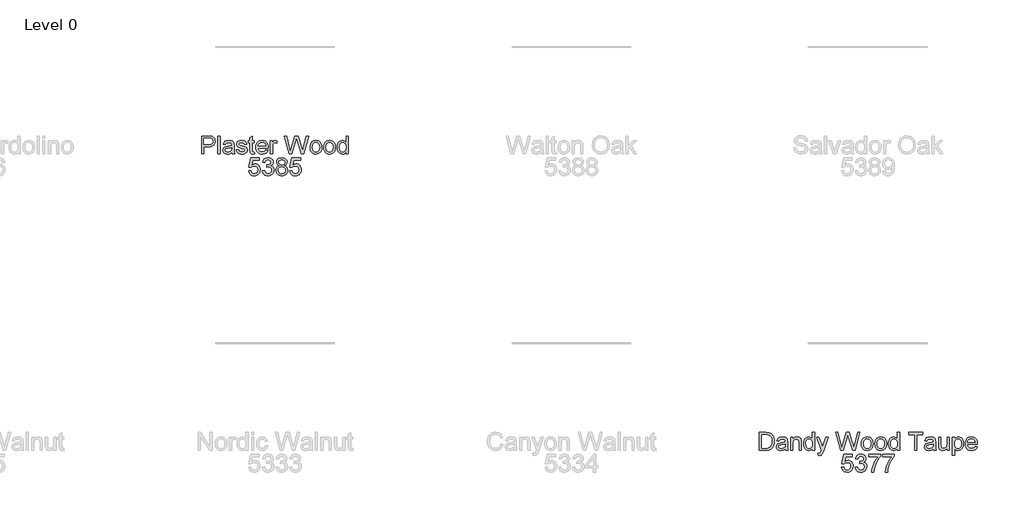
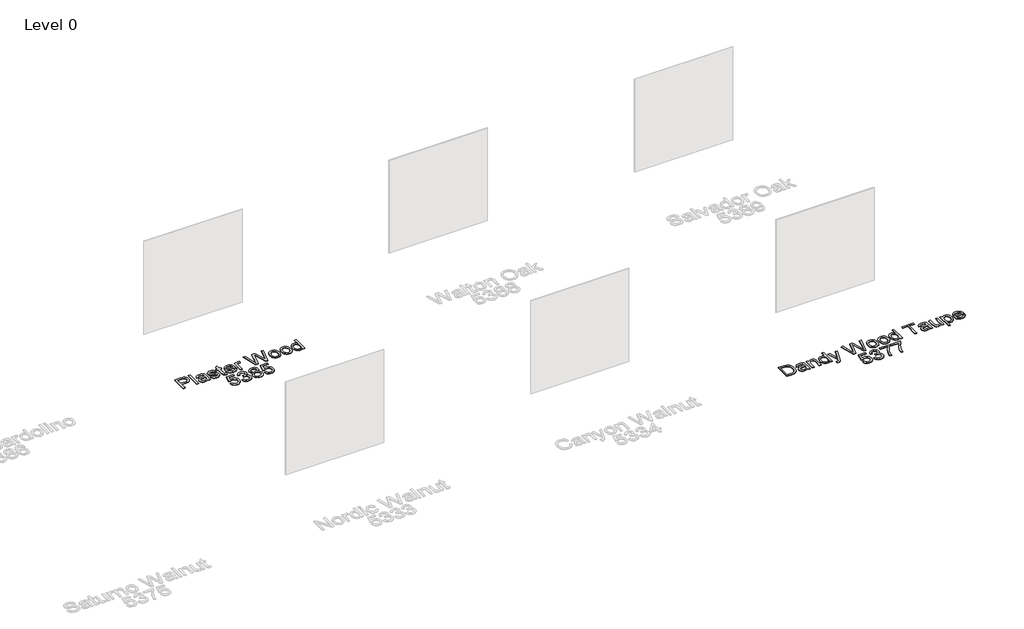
# One storey, part 14 of 16: 2 proxies.
"""IFC4 building model written with IfcOpenShell, lengths in millimetres."""

import ifcopenshell
import ifcopenshell.guid

model = None  # the IFC model being written
_history = None  # IfcOwnerHistory: only IFC2X3 demands one
_inside = {}  # id of a spatial element -> (the spatial element, [elements in it])
_under = {}  # id of a project, library or spatial element -> (it, [spatial elements below it])
_declared = {}  # id of a project -> (the project, [libraries it declares])
_typed = {}  # id of a type object -> (the type object, [elements of that type])
_made_of = {}  # id of a material, layer set ... -> (it, [elements and type objects made of it])


def new_model(schema):
    """Start an empty IFC model of exactly this schema.

    Asked for "IFC4X3", IfcOpenShell would pick the latest addendum, in which some entities
    have other attributes; the version numbers below select the first issue.
    IFC2X3 requires an IfcOwnerHistory on every rooted entity: one is made here for all.
    """
    global model, _history
    if schema == "IFC4X3":
        model = ifcopenshell.file(schema_version=(4, 3, 0, 0))
    else:
        model = ifcopenshell.file(schema=schema)
    _inside.clear()
    _under.clear()
    _declared.clear()
    _typed.clear()
    _made_of.clear()
    _history = None
    if model.schema == "IFC2X3":
        org = make("IfcOrganization", Name="unknown")
        user = make(
            "IfcPersonAndOrganization",
            ThePerson=make("IfcPerson", FamilyName="unknown"),
            TheOrganization=org,
        )
        app = make(
            "IfcApplication",
            ApplicationDeveloper=org,
            Version="unknown",
            ApplicationFullName="unknown",
            ApplicationIdentifier="unknown",
        )
        _history = make(
            "IfcOwnerHistory",
            OwningUser=user,
            OwningApplication=app,
            ChangeAction="ADDED",
            CreationDate=0,
        )
    return model


def make(cls, **values):
    """One entity of the class cls with the attributes given. An attribute that is None is left unset."""
    return model.create_entity(
        cls, **{name: value for name, value in values.items() if value is not None}
    )


def rooted(cls, **values):
    """An entity with a GlobalId (a new one), such as an element, a storey or a relation."""
    return make(cls, GlobalId=ifcopenshell.guid.new(), OwnerHistory=_history, **values)


def si_unit(unit_type, name, prefix=None):
    """IfcSIUnit, for example si_unit("LENGTHUNIT", "METRE", prefix="MILLI")."""
    return make("IfcSIUnit", UnitType=unit_type, Prefix=prefix, Name=name)


def assignment(units):
    """IfcUnitAssignment: the units of a project."""
    return None if units is None else make("IfcUnitAssignment", Units=units)


def point(xyz):
    """IfcCartesianPoint."""
    return None if xyz is None else make("IfcCartesianPoint", Coordinates=xyz)


def direction(xyz):
    """IfcDirection."""
    return None if xyz is None else make("IfcDirection", DirectionRatios=xyz)


def frame(location, z_axis=None, x_axis=None):
    """IfcAxis2Placement3D, a coordinate frame: its origin and axes. An axis left out is left unset."""
    return make(
        "IfcAxis2Placement3D",
        Location=point(location),
        Axis=direction(z_axis),
        RefDirection=direction(x_axis),
    )


def origin():
    """The frame at (0, 0, 0) with its axes left unset."""
    return frame((0.0, 0.0, 0.0))


def origin_with_axes():
    """The frame at (0, 0, 0) with the z axis (0, 0, 1) and the x axis (1, 0, 0) written out."""
    return frame((0.0, 0.0, 0.0), z_axis=(0.0, 0.0, 1.0), x_axis=(1.0, 0.0, 0.0))


def place(relative_to, where):
    """IfcLocalPlacement: puts the frame where relative to a parent placement (None: the world)."""
    return make(
        "IfcLocalPlacement", PlacementRelTo=relative_to, RelativePlacement=where
    )


def context(
    kind, dimensions, precision=None, world=None, true_north=None, identifier=None
):
    """IfcGeometricRepresentationContext, for example the 3D "Model" context."""
    return make(
        "IfcGeometricRepresentationContext",
        ContextIdentifier=identifier,
        ContextType=kind,
        CoordinateSpaceDimension=dimensions,
        Precision=precision,
        WorldCoordinateSystem=world,
        TrueNorth=true_north,
    )


def project(units=None, contexts=None):
    """IfcProject with its units and contexts."""
    return rooted(
        "IfcProject",
        Name="project",
        RepresentationContexts=contexts,
        UnitsInContext=assignment(units),
    )


def spatial(cls, under=None, at=None, **own):
    """A site, building, storey or space (cls), placed at a placement, below another one or the project."""
    s = rooted(cls, ObjectPlacement=at, **own)
    if under is not None:
        _under.setdefault(under.id(), (under, []))[1].append(s)
    return s


def polyline(points):
    """IfcPolyline through the points."""
    return make("IfcPolyline", Points=[point(p) for p in points])


def outline(outer, holes=None, kind="AREA"):
    """IfcArbitraryClosedProfileDef: a profile drawn as a closed curve; with holes, ...WithVoids."""
    if holes is None:
        return make("IfcArbitraryClosedProfileDef", ProfileType=kind, OuterCurve=outer)
    return make(
        "IfcArbitraryProfileDefWithVoids",
        ProfileType=kind,
        OuterCurve=outer,
        InnerCurves=holes,
    )


def extrude(swept, where, along, depth):
    """IfcExtrudedAreaSolid: the profile swept, set in the frame where, extruded along a direction by depth."""
    return make(
        "IfcExtrudedAreaSolid",
        SweptArea=swept,
        Position=where,
        ExtrudedDirection=direction(along),
        Depth=depth,
    )


def shape(context_of_items, identifier, shape_type, items):
    """IfcShapeRepresentation: the items that make up one representation, for example the "Body"."""
    return make(
        "IfcShapeRepresentation",
        ContextOfItems=context_of_items,
        RepresentationIdentifier=identifier,
        RepresentationType=shape_type,
        Items=items,
    )


def made_of(thing, what):
    """Note that an element or type object is made of a material, layer set ...; save() writes the relation."""
    if what is not None:
        _made_of.setdefault(what.id(), (what, []))[1].append(thing)
    return thing


def element(
    cls,
    number,
    at=None,
    inside=None,
    cuts=None,
    type_object=None,
    material=None,
    context=None,
    identifier="Body",
    shape_type=None,
    held_by="IfcProductDefinitionShape",
    body=None,
    shapes=None,
    **own,
):
    """One element of the class cls, such as IfcWall. Its Tag is "e" and its number.

    at: its placement. inside: the storey or other place that contains it. cuts: it is an
    opening in that element (IfcRelVoidsElement). A single representation is given by context,
    identifier, shape_type and body (its items); several are given by shapes. held_by: the class
    of the entity that holds the representations. save() writes the other relations.
    """
    e = rooted(cls, Tag="e%d" % number, ObjectPlacement=at, **own)
    if body is not None:
        shapes = [shape(context, identifier, shape_type, body)]
    if shapes is not None:
        e.Representation = make(held_by, Representations=shapes)
    if inside is not None:
        _inside.setdefault(inside.id(), (inside, []))[1].append(e)
    if cuts is not None:
        rooted(
            "IfcRelVoidsElement", RelatingBuildingElement=cuts, RelatedOpeningElement=e
        )
    if type_object is not None:
        _typed.setdefault(type_object.id(), (type_object, []))[1].append(e)
    return made_of(e, material)


def aggregate(whole, parts):
    """IfcRelAggregates: a whole, such as a stair, and the parts it consists of."""
    return rooted("IfcRelAggregates", RelatingObject=whole, RelatedObjects=parts)


def save(model, path):
    """Write the relations noted so far, then the file.

    IfcRelAggregates (storeys below a building ...), IfcRelContainedInSpatialStructure (elements
    in a storey), IfcRelDefinesByType, IfcRelAssociatesMaterial and IfcRelDeclares: one each for
    every whole, place, type object, material and project.
    """
    for whole, parts in _under.values():
        aggregate(whole, parts)
    for where, things in _inside.values():
        rooted(
            "IfcRelContainedInSpatialStructure",
            RelatedElements=things,
            RelatingStructure=where,
        )
    for kind, things in _typed.values():
        rooted("IfcRelDefinesByType", RelatedObjects=things, RelatingType=kind)
    for what, things in _made_of.values():
        rooted("IfcRelAssociatesMaterial", RelatedObjects=things, RelatingMaterial=what)
    for by, libraries in _declared.values():
        rooted("IfcRelDeclares", RelatingContext=by, RelatedDefinitions=libraries)
    model.write(path)


model = new_model("IFC4")

# Units and contexts
model_context = context("Model", 3, world=origin())
ifc_project = project(units=[si_unit("LENGTHUNIT", "METRE", prefix="MILLI")], contexts=[model_context])

# Site, building, storey
site = spatial("IfcSite", under=ifc_project)
building = spatial("IfcBuilding", under=site)
storey = spatial("IfcBuildingStorey", under=building, Name="Level 0", Elevation=0.0)

# Proxies
placement = place(None, origin())
element("IfcBuildingElementProxy", 1, Name="300mm Arial", ObjectType="300mm Arial", at=placement, inside=storey, context=model_context, shape_type="SweptSolid", body=[
    extrude(outline(polyline([(8722.2928028, -12002.860494), (8722.2928028, -11701.4915635), (8826.2562547, -11701.4915635), (8880.0406024, -11705.8325711), (8904.0632967, -11714.2018865), (8924.3335946, -11727.390456), (8945.1741096, -11750.3462925), (8960.0181481, -11778.8939353), (8968.9024983, -11812.4815615), (8971.8639484, -11850.557348), (8969.8589915, -11882.9033724), (8963.8441209, -11911.3682418), (8954.6838592, -11935.6024682), (8943.2427291, -11955.2565638), (8930.0725537, -11970.771987), (8915.7251559, -11982.590196), (8899.2532396, -11991.3549846), (8879.7095086, -11997.710146), (8831.2594498, -12002.860494), (8722.2928028, -12002.860494)]), holes=[polyline([(8759.9639192, -11965.1893777), (8826.6241367, -11965.1893777), (8854.1968922, -11963.8282143), (8875.1109836, -11959.7447241), (8890.8931212, -11953.1780305), (8903.0700153, -11944.3672567), (8916.1574173, -11928.0608873), (8925.9890636, -11906.9536578), (8932.1418899, -11880.9535978), (8934.1928321, -11849.9687368), (8930.1737213, -11808.9131061), (8918.1163889, -11778.5996297), (8900.3017033, -11757.7775088), (8879.0105328, -11745.1959446), (8857.3422833, -11740.670996), (8825.5940671, -11739.1626798), (8759.9639192, -11739.1626798), (8759.9639192, -11965.1893777)])]), origin_with_axes(), (0.0, 0.0, 1.0), 10.0),
    extrude(outline(polyline([(9160.2195299, -11974.6071568), (9142.2209033, -11990.0398064), (9123.6888478, -12000.1381672), (9104.2002991, -12005.7115794), (9083.3321929, -12007.5693835), (9051.8506912, -12003.0996173), (9028.6281402, -11989.6903186), (9014.3083336, -11969.3280501), (9009.5350647, -11943.9993748), (9011.3376865, -11928.3827841), (9016.7455518, -11914.2009331), (9025.087276, -11902.0608273), (9035.6914745, -11892.5694718), (9062.0686136, -11880.2086368), (9094.6629584, -11874.5432541), (9133.1802033, -11868.5835657), (9159.9988007, -11861.5938078), (9160.2195299, -11853.2060983), (9157.6259618, -11836.3938912), (9149.8452576, -11825.3942195), (9132.4444393, -11817.2272392), (9108.2010158, -11814.5049125), (9085.7602141, -11816.3167313), (9070.0884411, -11821.7521878), (9059.4014691, -11831.8045633), (9051.9150705, -11847.4671392), (9014.2439542, -11842.7582497), (9020.7830567, -11822.156858), (9030.5411266, -11805.9700502), (9044.4286719, -11793.590821), (9063.3562006, -11784.4121652), (9086.5051751, -11778.7283884), (9113.0570581, -11776.8337961), (9138.5236892, -11778.5076592), (9158.7112137, -11783.5292485), (9173.9323313, -11791.0800264), (9184.4997416, -11800.3414556), (9191.5078936, -11811.7917827), (9196.0512362, -11825.9092543), (9197.8906462, -11858.8714811), (9197.8906462, -11905.7396473), (9199.8036326, -11971.1858542), (9207.3084253, -12002.860494), (9169.637309, -12002.860494), (9160.2195299, -11974.6071568)]), holes=[polyline([(9160.2195299, -11899.2649241), (9099.4454243, -11910.8164188), (9067.0350205, -11916.9232599), (9052.3565289, -11926.8560738), (9047.206181, -11941.3506244), (9050.0112812, -11952.5526311), (9058.4265818, -11961.7312869), (9072.2681419, -11967.8565221), (9091.3520204, -11969.8982672), (9111.5855301, -11967.64499), (9129.4645951, -11960.8851583), (9143.9591457, -11950.9247533), (9154.0391124, -11939.069756), (9158.5088786, -11926.8560738), (9159.9988007, -11909.933502), (9160.2195299, -11899.2649241)])]), origin_with_axes(), (0.0, 0.0, 1.0), 10.0),
    extrude(outline(polyline([(9249.6884311, -12002.860494), (9249.6884311, -11781.5426857), (9287.3595474, -11781.5426857), (9287.3595474, -11812.4447733), (9300.4469494, -11796.8649708), (9316.1647077, -11785.7365404), (9334.5128222, -11779.0594822), (9355.4912929, -11776.8337961), (9374.0601367, -11778.6272209), (9391.0654819, -11784.0074951), (9405.2473328, -11792.303234), (9415.3456936, -11802.8430532), (9426.6396708, -11830.5445674), (9428.6262336, -11866.964885), (9428.6262336, -12002.860494), (9390.9551173, -12002.860494), (9390.9551173, -11872.0416565), (9386.6141097, -11838.7115477), (9380.6084362, -11828.7879309), (9371.2734305, -11821.0900002), (9359.3080686, -11816.1511844), (9345.4113263, -11814.5049125), (9323.3476036, -11818.2021265), (9304.5396366, -11829.2937687), (9297.0233476, -11838.3482643), (9291.6545697, -11850.7228949), (9287.3595474, -11885.4325611), (9287.3595474, -12002.860494), (9249.6884311, -12002.860494)])), origin_with_axes(), (0.0, 0.0, 1.0), 10.0),
    extrude(outline(polyline([(9616.9818151, -12002.860494), (9616.9818151, -11967.3230932), (9605.7108305, -11984.9308452), (9592.0578099, -11997.507811), (9576.0227535, -12005.0539904), (9557.6056611, -12007.5693835), (9533.251873, -12003.9273518), (9510.9582241, -11993.0012565), (9492.0858778, -11975.5544529), (9477.9959973, -11952.350296), (9469.2220118, -11924.3268851), (9466.2973499, -11892.422319), (9468.9920855, -11860.9132261), (9477.0762924, -11832.4575538), (9490.5407734, -11808.6739828), (9509.3763315, -11791.181194), (9532.1574241, -11780.4206456), (9557.4585083, -11776.8337961), (9575.8893963, -11779.3997731), (9592.1865686, -11787.0977038), (9606.0005376, -11798.8975188), (9616.9818151, -11813.7691485), (9616.9818151, -11701.4915635), (9654.6529314, -11701.4915635), (9654.6529314, -12002.860494), (9616.9818151, -12002.860494)]), holes=[polyline([(9503.9684662, -11892.2751662), (9508.2175032, -11926.350236), (9520.9646144, -11950.5844625), (9539.4874728, -11965.069816), (9561.0637518, -11969.8982672), (9582.6308338, -11965.2905452), (9600.6846427, -11951.4673793), (9612.907522, -11928.1712519), (9616.9818151, -11895.1446458), (9612.8339456, -11859.037028), (9600.3903371, -11834.0026582), (9581.8766757, -11819.3793489), (9559.5186475, -11814.5049125), (9537.7216393, -11819.1862108), (9519.8609684, -11833.230106), (9507.9415917, -11857.3539678), (9503.9684662, -11892.2751662)])]), origin_with_axes(), (0.0, 0.0, 1.0), 10.0),
    extrude(outline(polyline([(9711.1596059, -12087.6205057), (9706.4507163, -12051.3473409), (9725.5805801, -12054.6582789), (9743.4596451, -12050.5012124), (9754.4225285, -12038.9129295), (9764.7232244, -12011.1746271), (9767.6662803, -12002.0511536), (9687.6151582, -11781.5426857), (9727.3464137, -11781.5426857), (9769.7999959, -11904.4152721), (9784.5888521, -11953.5643066), (9799.3777083, -11910.1542312), (9843.008513, -11781.5426857), (9882.4454628, -11781.5426857), (9805.410973, -12008.1579947), (9785.3981925, -12057.3070293), (9775.1526789, -12072.9971964), (9763.546002, -12083.8681093), (9750.0631269, -12090.2140737), (9734.1890188, -12092.3293952), (9711.1596059, -12087.6205057)])), origin_with_axes(), (0.0, 0.0, 1.0), 10.0),
    extrude(outline(polyline([(10090.0044845, -12002.860494), (10007.8196468, -11701.4915635), (10046.6679855, -11701.4915635), (10094.3454921, -11899.5592297), (10109.0607719, -11960.7012173), (10124.8061213, -11906.622564), (10184.5501573, -11701.4915635), (10240.5417969, -11701.4915635), (10283.9518724, -11850.189466), (10302.5483072, -11905.3717653), (10316.2519115, -11960.7012173), (10330.525733, -11901.3250633), (10378.6446979, -11701.4915635), (10417.4930366, -11701.4915635), (10335.2346225, -12002.860494), (10294.9883322, -12002.860494), (10222.7363084, -11770.359073), (10212.6563417, -11737.9118811), (10201.3255763, -11776.9809489), (10135.4746991, -12002.860494), (10090.0044845, -12002.860494)])), origin_with_axes(), (0.0, 0.0, 1.0), 10.0),
    extrude(outline(polyline([(10441.0374843, -11892.2015898), (10443.0746309, -11863.5389839), (10449.1860705, -11838.8403064), (10459.3718032, -11818.1055575), (10473.6318291, -11801.334737), (10487.9884239, -11790.6155754), (10503.8349409, -11782.9590314), (10521.1713799, -11778.3651049), (10539.997741, -11776.8337961), (10560.7807745, -11778.698498), (10579.5726466, -11784.2926036), (10596.3733575, -11793.6161129), (10611.1829071, -11806.669026), (10623.2701299, -11823.0098843), (10631.9038605, -11842.1972296), (10637.0840988, -11864.2310619), (10638.8108449, -11889.1113811), (10635.7574244, -11927.1687735), (10626.5971627, -11956.1394806), (10611.5967743, -11977.8353213), (10591.0229737, -11994.0681143), (10566.5864122, -12004.1940662), (10539.997741, -12007.5693835), (10518.9112049, -12005.7115794), (10499.9445888, -12000.1381672), (10483.0978927, -11990.8491468), (10468.3711166, -11977.8445183), (10456.4126524, -11961.3450108), (10447.8708924, -11941.5713536), (10442.7458363, -11918.5235466), (10441.0374843, -11892.2015898)]), holes=[polyline([(10478.7086006, -11892.1280134), (10483.0680023, -11926.2214773), (10496.1462072, -11950.5108861), (10515.8278939, -11965.0514219), (10539.997741, -11969.8982672), (10564.0572235, -11965.0238308), (10583.702122, -11950.4005215), (10596.780327, -11925.789216), (10601.1397286, -11890.950791), (10596.7527358, -11857.8506085), (10583.5917574, -11833.8922936), (10563.9192678, -11819.3517577), (10539.997741, -11814.5049125), (10515.8278939, -11819.3333636), (10496.1462072, -11833.8187172), (10483.0680023, -11858.0529436), (10478.7086006, -11892.1280134)])]), origin_with_axes(), (0.0, 0.0, 1.0), 10.0),
    extrude(outline(polyline([(10671.7730717, -11892.2015898), (10673.8102182, -11863.5389839), (10679.9216579, -11838.8403064), (10690.1073906, -11818.1055575), (10704.3674165, -11801.334737), (10718.7240113, -11790.6155754), (10734.5705283, -11782.9590314), (10751.9069673, -11778.3651049), (10770.7333284, -11776.8337961), (10791.5163619, -11778.698498), (10810.308234, -11784.2926036), (10827.1089449, -11793.6161129), (10841.9184945, -11806.669026), (10854.0057173, -11823.0098843), (10862.6394478, -11842.1972296), (10867.8196862, -11864.2310619), (10869.5464323, -11889.1113811), (10866.4930117, -11927.1687735), (10857.3327501, -11956.1394806), (10842.3323617, -11977.8353213), (10821.7585611, -11994.0681143), (10797.3219996, -12004.1940662), (10770.7333284, -12007.5693835), (10749.6467923, -12005.7115794), (10730.6801762, -12000.1381672), (10713.83348, -11990.8491468), (10699.1067039, -11977.8445183), (10687.1482398, -11961.3450108), (10678.6064797, -11941.5713536), (10673.4814237, -11918.5235466), (10671.7730717, -11892.2015898)]), holes=[polyline([(10709.444188, -11892.1280134), (10713.8035896, -11926.2214773), (10726.8817946, -11950.5108861), (10746.5634813, -11965.0514219), (10770.7333284, -11969.8982672), (10794.7928109, -11965.0238308), (10814.4377094, -11950.4005215), (10827.5159143, -11925.789216), (10831.875316, -11890.950791), (10827.4883232, -11857.8506085), (10814.3273448, -11833.8922936), (10794.6548551, -11819.3517577), (10770.7333284, -11814.5049125), (10746.5634813, -11819.3333636), (10726.8817946, -11833.8187172), (10713.8035896, -11858.0529436), (10709.444188, -11892.1280134)])]), origin_with_axes(), (0.0, 0.0, 1.0), 10.0),
    extrude(outline(polyline([(11048.4842347, -12002.860494), (11048.4842347, -11967.3230932), (11037.2132501, -11984.9308452), (11023.5602296, -11997.507811), (11007.5251731, -12005.0539904), (10989.1080807, -12007.5693835), (10964.7542926, -12003.9273518), (10942.4606437, -11993.0012565), (10923.5882974, -11975.5544529), (10909.498417, -11952.350296), (10900.7244314, -11924.3268851), (10897.7997695, -11892.422319), (10900.4945051, -11860.9132261), (10908.578712, -11832.4575538), (10922.043193, -11808.6739828), (10940.8787512, -11791.181194), (10963.6598437, -11780.4206456), (10988.9609279, -11776.8337961), (11007.3918159, -11779.3997731), (11023.6889883, -11787.0977038), (11037.5029572, -11798.8975188), (11048.4842347, -11813.7691485), (11048.4842347, -11701.4915635), (11086.1553511, -11701.4915635), (11086.1553511, -12002.860494), (11048.4842347, -12002.860494)]), holes=[polyline([(10935.4708858, -11892.2751662), (10939.7199229, -11926.350236), (10952.467034, -11950.5844625), (10970.9898925, -11965.069816), (10992.5661715, -11969.8982672), (11014.1332534, -11965.2905452), (11032.1870624, -11951.4673793), (11044.4099417, -11928.1712519), (11048.4842347, -11895.1446458), (11044.3363653, -11859.037028), (11031.8927568, -11834.0026582), (11013.3790954, -11819.3793489), (10991.0210671, -11814.5049125), (10969.2240589, -11819.1862108), (10951.363388, -11833.230106), (10939.4440114, -11857.3539678), (10935.4708858, -11892.2751662)])]), origin_with_axes(), (0.0, 0.0, 1.0), 10.0),
    extrude(outline(polyline([(11340.4353861, -12002.860494), (11340.4353861, -11739.1626798), (11241.5487058, -11739.1626798), (11241.5487058, -11701.4915635), (11476.9931827, -11701.4915635), (11476.9931827, -11739.1626798), (11378.1065024, -11739.1626798), (11378.1065024, -12002.860494), (11340.4353861, -12002.860494)])), origin_with_axes(), (0.0, 0.0, 1.0), 10.0),
    extrude(outline(polyline([(11655.9309852, -11974.6071568), (11637.9323586, -11990.0398064), (11619.4003031, -12000.1381672), (11599.9117544, -12005.7115794), (11579.0436482, -12007.5693835), (11547.5621465, -12003.0996173), (11524.3395955, -11989.6903186), (11510.0197888, -11969.3280501), (11505.24652, -11943.9993748), (11507.0491417, -11928.3827841), (11512.4570071, -11914.2009331), (11520.7987313, -11902.0608273), (11531.4029298, -11892.5694718), (11557.7800689, -11880.2086368), (11590.3744136, -11874.5432541), (11628.8916585, -11868.5835657), (11655.710256, -11861.5938078), (11655.9309852, -11853.2060983), (11653.3374171, -11836.3938912), (11645.5567129, -11825.3942195), (11628.1558945, -11817.2272392), (11603.9124711, -11814.5049125), (11581.4716694, -11816.3167313), (11565.7998964, -11821.7521878), (11555.1129244, -11831.8045633), (11547.6265258, -11847.4671392), (11509.9554095, -11842.7582497), (11516.494512, -11822.156858), (11526.2525819, -11805.9700502), (11540.1401272, -11793.590821), (11559.0676559, -11784.4121652), (11582.2166304, -11778.7283884), (11608.7685134, -11776.8337961), (11634.2351445, -11778.5076592), (11654.422669, -11783.5292485), (11669.6437866, -11791.0800264), (11680.2111969, -11800.3414556), (11687.2193489, -11811.7917827), (11691.7626915, -11825.9092543), (11693.6021015, -11858.8714811), (11693.6021015, -11905.7396473), (11695.5150879, -11971.1858542), (11703.0198806, -12002.860494), (11665.3487643, -12002.860494), (11655.9309852, -11974.6071568)]), holes=[polyline([(11655.9309852, -11899.2649241), (11595.1568796, -11910.8164188), (11562.7464758, -11916.9232599), (11548.0679842, -11926.8560738), (11542.9176363, -11941.3506244), (11545.7227365, -11952.5526311), (11554.1380371, -11961.7312869), (11567.9795972, -11967.8565221), (11587.0634757, -11969.8982672), (11607.2969854, -11967.64499), (11625.1760504, -11960.8851583), (11639.670601, -11950.9247533), (11649.7505677, -11939.069756), (11654.2203339, -11926.8560738), (11655.710256, -11909.933502), (11655.9309852, -11899.2649241)])]), origin_with_axes(), (0.0, 0.0, 1.0), 10.0),
    extrude(outline(polyline([(11886.6665726, -12002.860494), (11886.6665726, -11964.8214957), (11873.0365446, -11983.5236966), (11857.1624365, -11996.8824116), (11839.0442483, -12004.8976405), (11818.6819799, -12007.5693835), (11800.3338653, -12005.6931853), (11783.2549437, -12000.0645908), (11768.92594, -11991.6033049), (11758.8275792, -11981.2290327), (11747.6071784, -11953.4907302), (11745.3998864, -11918.4683643), (11745.3998864, -11781.5426857), (11783.0710027, -11781.5426857), (11783.0710027, -11900.7364521), (11785.3518711, -11939.1433324), (11790.8425099, -11951.9548229), (11800.2510919, -11961.6944987), (11812.9522178, -11967.8473251), (11828.3204881, -11969.8982672), (11844.5716753, -11967.8013398), (11859.7743987, -11961.5105577), (11872.3099777, -11951.605335), (11880.5597314, -11938.6650858), (11885.1398623, -11920.9423707), (11886.6665726, -11896.6897502), (11886.6665726, -11781.5426857), (11924.3376889, -11781.5426857), (11924.3376889, -12002.860494), (11886.6665726, -12002.860494)])), origin_with_axes(), (0.0, 0.0, 1.0), 10.0),
    extrude(outline(polyline([(11976.1354738, -12087.6205057), (11976.1354738, -11781.5426857), (12013.8065901, -11781.5426857), (12013.8065901, -11818.478038), (12026.0938487, -11800.2586822), (12039.8526354, -11787.2448566), (12055.8922903, -11779.4365613), (12075.0221541, -11776.8337961), (12100.4979823, -11780.4758279), (12122.7732371, -11791.4019232), (12140.9098194, -11808.9498943), (12153.9696303, -11832.4575538), (12161.8606991, -11860.2142504), (12164.4910553, -11890.5093327), (12161.5204082, -11922.7265984), (12152.6084669, -11951.5409557), (12138.0403399, -11975.4900735), (12118.1011357, -11993.1116211), (12094.8785848, -12003.9549429), (12070.4604173, -12007.5693835), (12053.1423724, -12005.1505594), (12037.6821316, -11997.894087), (12024.4475768, -11986.9404006), (12013.8065901, -11973.4299344), (12013.8065901, -12087.6205057), (11976.1354738, -12087.6205057)]), holes=[polyline([(12013.8065901, -11893.9674234), (12017.8808832, -11927.7389906), (12030.1037625, -11951.3570147), (12048.1391773, -11965.2629541), (12069.651077, -11969.8982672), (12091.5124645, -11965.0974072), (12110.0077318, -11950.6948271), (12122.6168872, -11926.2122803), (12126.819939, -11891.1715202), (12122.7180548, -11857.5838941), (12110.412402, -11833.6347762), (12092.4045784, -11819.2873784), (12071.1961813, -11814.5049125), (12049.9050109, -11819.590881), (12031.2074085, -11834.8487868), (12018.1567947, -11859.8003831), (12013.8065901, -11893.9674234)])]), origin_with_axes(), (0.0, 0.0, 1.0), 10.0),
    extrude(outline(polyline([(12361.8229575, -11936.9360404), (12398.7583098, -11941.64493), (12385.4501787, -11969.4752029), (12364.2141905, -11990.2789297), (12335.5285919, -12003.2467701), (12299.8716295, -12007.5693835), (12276.4973273, -12005.7046817), (12255.6706078, -12000.1105761), (12237.3914712, -11990.7870668), (12221.6599174, -11977.7341537), (12209.0093753, -11961.3151204), (12199.9732738, -11941.8932503), (12194.5516128, -11919.4685435), (12192.7443925, -11894.0409998), (12194.5700069, -11867.7512327), (12200.0468502, -11844.5792656), (12209.1749222, -11824.5250983), (12221.954223, -11807.5887309), (12237.6443901, -11794.133447), (12255.5050609, -11784.5225298), (12275.5362356, -11778.7559796), (12297.737914, -11776.8337961), (12319.2245218, -11778.751381), (12338.6555889, -11784.5041357), (12356.0311154, -11794.0920602), (12371.3511012, -11807.5151545), (12383.8567898, -11824.4147337), (12392.7894245, -11844.4321128), (12398.1490053, -11867.5672917), (12399.9355322, -11893.8202706), (12399.714803, -11903.9738137), (12230.4155089, -11903.9738137), (12236.9362172, -11932.1719686), (12252.0837584, -11952.902119), (12273.9451459, -11965.6492302), (12300.6073935, -11969.8982672), (12320.6569623, -11967.9300985), (12337.5427458, -11962.0255925), (12351.2647443, -11951.8168672), (12361.8229575, -11936.9360404)]), holes=[polyline([(12230.4155089, -11866.3026974), (12362.2644159, -11866.3026974), (12357.1692503, -11846.4002814), (12347.1812541, -11832.1632482), (12325.218699, -11818.9194964), (12297.5907612, -11814.5049125), (12272.1977065, -11818.0273826), (12251.2008416, -11828.5947929), (12236.6051234, -11845.0667092), (12230.4155089, -11866.3026974)])]), origin_with_axes(), (0.0, 0.0, 1.0), 10.0),
    extrude(outline(polyline([(10106.7063271, -12288.7338254), (10144.3774434, -12284.0249358), (10151.2936249, -12306.6404815), (10163.3601544, -12322.8364863), (10180.5218494, -12332.5761621), (10202.7235278, -12335.8227207), (10229.7260663, -12331.3069693), (10249.959576, -12317.7597148), (10262.5963226, -12296.7444558), (10266.8085714, -12269.8246908), (10262.863037, -12244.4776213), (10251.0264338, -12225.0902402), (10231.2067913, -12212.7845875), (10203.312139, -12208.6827032), (10185.0376009, -12210.3197781), (10170.2395477, -12215.2310027), (10149.0863329, -12232.2271509), (10111.4152166, -12227.5182614), (10144.3774434, -12072.1249066), (10290.3530191, -12072.1249066), (10290.3530191, -12109.7960229), (10174.8380726, -12109.7960229), (10158.7248412, -12192.790201), (10185.6354092, -12176.4562404), (10213.8335641, -12171.0115869), (10232.1793793, -12172.6992456), (10249.030674, -12177.7622215), (10264.387448, -12186.2005148), (10278.2497014, -12198.0141254), (10289.7253204, -12212.4810848), (10297.9221911, -12228.8794248), (10302.8403136, -12247.2091452), (10304.4796877, -12267.470246), (10298.5751817, -12305.1413624), (10291.1945492, -12321.9351754), (10280.8616636, -12337.3678251), (10265.2082847, -12353.1729553), (10246.9429437, -12364.4623341), (10226.0656404, -12371.2359613), (10202.576375, -12373.4938371), (10165.5766434, -12367.6904986), (10149.8979726, -12360.4363255), (10136.1000985, -12350.2804832), (10124.619881, -12337.7288093), (10115.8941799, -12323.2871418), (10106.7063271, -12288.7338254)])), origin_with_axes(), (0.0, 0.0, 1.0), 10.0),
    extrude(outline(polyline([(10337.4419145, -12288.7338254), (10375.1130308, -12284.0249358), (10383.5467255, -12307.6981422), (10395.8983635, -12323.6826149), (10412.77495, -12332.7876943), (10434.7834904, -12335.8227207), (10460.6088065, -12331.6472601), (10480.5480106, -12319.1208782), (10493.2951217, -12300.4324728), (10497.5441588, -12277.7709419), (10493.3319099, -12256.2590422), (10480.6951634, -12238.8122386), (10461.5652996, -12227.2515469), (10437.8736992, -12223.397983), (10411.4597719, -12227.5182614), (10415.6536266, -12189.8471451), (10421.6868914, -12190.2886035), (10444.2564518, -12187.5846708), (10464.4347792, -12179.4728728), (10478.6718124, -12165.7508744), (10483.4174902, -12146.2163404), (10479.9777935, -12129.9467592), (10469.6587035, -12116.7489926), (10453.9133541, -12108.0025982), (10434.1948792, -12105.0871334), (10414.4396161, -12108.0301893), (10398.2895965, -12116.8593572), (10386.4989785, -12131.574637), (10379.8219203, -12152.1760288), (10342.150804, -12147.4671392), (10353.2424462, -12113.6403898), (10372.9793152, -12088.3852908), (10399.9818537, -12072.6583355), (10432.870504, -12067.4160171), (10456.5529075, -12070.0003881), (10478.3039304, -12077.7535011), (10496.6428479, -12089.9855775), (10510.0889348, -12106.0068384), (10518.3386885, -12124.4653175), (10521.0886065, -12144.0090485), (10518.4766443, -12162.2192072), (10510.6407578, -12178.7371088), (10497.6913116, -12192.8085951), (10479.7386702, -12203.6795081), (10503.3199061, -12213.2076518), (10520.7943009, -12229.4312477), (10531.6100315, -12251.4673793), (10535.2152751, -12278.4331295), (10533.4126533, -12297.5445992), (10528.004788, -12315.1477526), (10518.9916791, -12331.2425899), (10506.3733267, -12345.829111), (10491.0004578, -12357.9324287), (10473.7237996, -12366.5776555), (10454.5433521, -12371.7647917), (10433.4591152, -12373.4938371), (10414.4028279, -12372.0177105), (10397.0387977, -12367.589331), (10381.3670247, -12360.2086985), (10367.3875089, -12349.875813), (10355.6658688, -12337.1976797), (10346.767723, -12322.781304), (10340.6930716, -12306.6266859), (10337.4419145, -12288.7338254)])), origin_with_axes(), (0.0, 0.0, 1.0), 10.0),
    extrude(outline(polyline([(10568.1775018, -12109.7960229), (10568.1775018, -12072.1249066), (10765.9508625, -12072.1249066), (10765.9508625, -12102.5855358), (10737.7619046, -12138.2608923), (10709.8488582, -12183.6299393), (10685.2283557, -12234.5540045), (10666.9170294, -12286.8944154), (10657.9407087, -12326.0554538), (10652.9375135, -12368.7849475), (10615.2663972, -12368.7849475), (10619.3406903, -12329.9550029), (10630.2391944, -12283.8042066), (10647.667604, -12234.8850983), (10671.3316133, -12187.7502177), (10698.9595511, -12145.1402856), (10728.2797461, -12109.7960229), (10568.1775018, -12109.7960229)])), origin_with_axes(), (0.0, 0.0, 1.0), 10.0),
    extrude(outline(polyline([(10798.9130892, -12109.7960229), (10798.9130892, -12072.1249066), (10996.6864498, -12072.1249066), (10996.6864498, -12102.5855358), (10968.4974919, -12138.2608923), (10940.5844456, -12183.6299393), (10915.963943, -12234.5540045), (10897.6526167, -12286.8944154), (10888.676296, -12326.0554538), (10883.6731009, -12368.7849475), (10846.0019846, -12368.7849475), (10850.0762777, -12329.9550029), (10860.9747818, -12283.8042066), (10878.4031913, -12234.8850983), (10902.0672007, -12187.7502177), (10929.6951385, -12145.1402856), (10959.0153335, -12109.7960229), (10798.9130892, -12109.7960229)])), origin_with_axes(), (0.0, 0.0, 1.0), 10.0),
])
element("IfcBuildingElementProxy", 2, Name="300mm Arial", ObjectType="300mm Arial", at=placement, inside=storey, context=model_context, shape_type="SweptSolid", body=[
    extrude(outline(polyline([(-684.3871153, -7002.860494), (-684.3871153, -6701.4915635), (-572.6981416, -6701.4915635), (-527.6693854, -6704.3610431), (-507.5922255, -6709.7229232), (-491.0651269, -6718.4509235), (-477.7569957, -6730.9405172), (-467.3367382, -6747.5871775), (-460.6044977, -6767.222879), (-458.3604175, -6788.6795964), (-459.8756315, -6807.1794622), (-464.4212734, -6824.198603), (-471.9973432, -6839.7370188), (-482.603841, -6853.7947095), (-497.1650702, -6865.4473717), (-516.6053344, -6873.7707019), (-540.9246335, -6878.7647), (-570.1229676, -6880.429366), (-646.715999, -6880.429366), (-646.715999, -7002.860494), (-684.3871153, -7002.860494)]), holes=[polyline([(-646.715999, -6842.7582497), (-567.9156757, -6842.7582497), (-534.5119905, -6839.3001589), (-512.4390708, -6828.9258867), (-500.133418, -6812.2792264), (-496.0315338, -6790.0039716), (-498.4503579, -6773.0813998), (-505.7068303, -6758.8075784), (-516.89964, -6748.0654241), (-531.1274761, -6741.7378538), (-568.7985924, -6739.1626798), (-646.715999, -6739.1626798), (-646.715999, -6842.7582497)])]), origin_with_axes(), (0.0, 0.0, 1.0), 10.0),
    extrude(outline(polyline([(-411.2715221, -7002.860494), (-411.2715221, -6701.4915635), (-373.6004058, -6701.4915635), (-373.6004058, -7002.860494), (-411.2715221, -7002.860494)])), origin_with_axes(), (0.0, 0.0, 1.0), 10.0),
    extrude(outline(polyline([(-175.8270452, -6974.6071568), (-193.8256718, -6990.0398064), (-212.3577273, -7000.1381672), (-231.846276, -7005.7115794), (-252.7143822, -7007.5693835), (-284.1958839, -7003.0996173), (-307.4184349, -6989.6903186), (-321.7382415, -6969.3280501), (-326.5115104, -6943.9993748), (-324.7088886, -6928.3827841), (-319.3010233, -6914.2009331), (-310.9592991, -6902.0608273), (-300.3551006, -6892.5694718), (-273.9779615, -6880.2086368), (-241.3836167, -6874.5432541), (-202.8663718, -6868.5835657), (-176.0477744, -6861.5938078), (-175.8270452, -6853.2060983), (-178.4206133, -6836.3938912), (-186.2013175, -6825.3942195), (-203.6021358, -6817.2272392), (-227.8455593, -6814.5049125), (-250.286361, -6816.3167313), (-265.958134, -6821.7521878), (-276.645106, -6831.8045633), (-284.1315046, -6847.4671392), (-321.8026209, -6842.7582497), (-315.2635184, -6822.156858), (-305.5054485, -6805.9700502), (-291.6179032, -6793.590821), (-272.6903745, -6784.4121652), (-249.5414, -6778.7283884), (-222.989517, -6776.8337961), (-197.5228859, -6778.5076592), (-177.3353614, -6783.5292485), (-162.1142438, -6791.0800264), (-151.5468335, -6800.3414556), (-144.5386815, -6811.7917827), (-139.9953389, -6825.9092543), (-138.1559289, -6858.8714811), (-138.1559289, -6905.7396473), (-136.2429425, -6971.1858542), (-128.7381498, -7002.860494), (-166.4092661, -7002.860494), (-175.8270452, -6974.6071568)]), holes=[polyline([(-175.8270452, -6899.2649241), (-236.6011508, -6910.8164188), (-269.0115546, -6916.9232599), (-283.6900462, -6926.8560738), (-288.8403941, -6941.3506244), (-286.0352939, -6952.5526311), (-277.6199933, -6961.7312869), (-263.7784332, -6967.8565221), (-244.6945547, -6969.8982672), (-224.461045, -6967.64499), (-206.58198, -6960.8851583), (-192.0874294, -6950.9247533), (-182.0074627, -6939.069756), (-177.5376965, -6926.8560738), (-176.0477744, -6909.933502), (-175.8270452, -6899.2649241)])]), origin_with_axes(), (0.0, 0.0, 1.0), 10.0),
    extrude(outline(polyline([(-100.4848126, -6936.9360404), (-62.8136963, -6932.2271509), (-56.8724021, -6948.3403823), (-45.3760897, -6960.1861825), (-28.2511828, -6967.470246), (-5.424105, -6969.8982672), (17.1270613, -6967.6725811), (32.9827753, -6960.9955229), (42.3637661, -6951.3202265), (45.4907631, -6940.0998256), (42.345372, -6930.4981055), (32.9091989, -6923.1772538), (-5.8655634, -6912.4350996), (-62.5929671, -6894.0042116), (-76.9495619, -6884.7427824), (-87.3514254, -6872.4831149), (-93.6697986, -6858.0069584), (-95.775923, -6842.0960621), (-94.0836659, -6827.5003439), (-89.0068943, -6814.0266659), (-81.0054609, -6802.2084568), (-70.5392182, -6792.5791455), (-46.5901003, -6781.4323211), (-14.1796965, -6776.8337961), (10.3396385, -6778.6824032), (31.6584001, -6784.2282242), (48.8017011, -6792.9286334), (60.7946541, -6804.2410048), (68.7409052, -6819.0022698), (73.7441003, -6838.0493601), (36.072984, -6842.7582497), (31.3181092, -6830.9032524), (21.9095272, -6821.972917), (7.7552674, -6816.3719136), (-11.2366406, -6814.5049125), (-32.8681019, -6816.2891401), (-47.2890761, -6821.6418232), (-55.4008741, -6829.3673451), (-58.1048067, -6838.2700893), (-53.6166464, -6849.2329728), (-39.5635542, -6857.5471059), (-7.1163622, -6865.5669334), (48.1763017, -6883.2988455), (62.7812169, -6891.7785255), (73.8544649, -6903.3852025), (80.8350258, -6918.1556646), (83.1618794, -6936.1267001), (80.4303556, -6954.7047408), (72.2357841, -6972.1791356), (58.8908648, -6987.1795239), (40.7082972, -6998.3355454), (18.745742, -7005.260924), (-5.9391398, -7007.5693835), (-43.9229558, -7003.1180114), (-71.6428642, -6989.763895), (-90.1473285, -6967.654187), (-100.4848126, -6936.9360404)])), origin_with_axes(), (0.0, 0.0, 1.0), 10.0),
    extrude(outline(polyline([(205.5930074, -6971.4433716), (210.3018969, -7003.96414), (182.1221361, -7007.5693835), (164.040736, -7006.005885), (150.5578609, -7001.3153896), (141.0297172, -6994.0865084), (134.8125115, -6984.9078526), (131.391209, -6969.1441091), (130.2507748, -6942.1599648), (130.2507748, -6819.213802), (101.9974376, -6819.213802), (101.9974376, -6781.5426857), (130.2507748, -6781.5426857), (130.2507748, -6727.758338), (167.9218911, -6705.6118419), (167.9218911, -6781.5426857), (205.5930074, -6781.5426857), (205.5930074, -6819.213802), (167.9218911, -6819.213802), (167.9218911, -6941.0563188), (169.9084539, -6960.4804881), (176.3463888, -6967.3598814), (189.1854704, -6969.8982672), (205.5930074, -6971.4433716)])), origin_with_axes(), (0.0, 0.0, 1.0), 10.0),
    extrude(outline(polyline([(398.2160201, -6936.9360404), (435.1513724, -6941.64493), (421.8432412, -6969.4752029), (400.607253, -6990.2789297), (371.9216545, -7003.2467701), (336.2646921, -7007.5693835), (312.8903898, -7005.7046817), (292.0636704, -7000.1105761), (273.7845337, -6990.7870668), (258.0529799, -6977.7341537), (245.4024378, -6961.3151204), (236.3663363, -6941.8932503), (230.9446754, -6919.4685435), (229.1374551, -6894.0409998), (230.9630695, -6867.7512327), (236.4399127, -6844.5792656), (245.5679847, -6824.5250983), (258.3472855, -6807.5887309), (274.0374526, -6794.133447), (291.8981235, -6784.5225298), (311.9292981, -6778.7559796), (334.1309765, -6776.8337961), (355.6175843, -6778.751381), (375.0486514, -6784.5041357), (392.4241779, -6794.0920602), (407.7441637, -6807.5151545), (420.2498523, -6824.4147337), (429.182487, -6844.4321128), (434.5420678, -6867.5672917), (436.3285948, -6893.8202706), (436.1078656, -6903.9738137), (266.8085714, -6903.9738137), (273.3292798, -6932.1719686), (288.4768209, -6952.902119), (310.3382085, -6965.6492302), (337.0004561, -6969.8982672), (357.0500248, -6967.9300985), (373.9358084, -6962.0255925), (387.6578068, -6951.8168672), (398.2160201, -6936.9360404)]), holes=[polyline([(266.8085714, -6866.3026974), (398.6574785, -6866.3026974), (393.5623128, -6846.4002814), (383.5743167, -6832.1632482), (361.6117616, -6818.9194964), (333.9838237, -6814.5049125), (308.590769, -6818.0273826), (287.5939041, -6828.5947929), (272.998186, -6845.0667092), (266.8085714, -6866.3026974)])]), origin_with_axes(), (0.0, 0.0, 1.0), 10.0),
    extrude(outline(polyline([(473.9997111, -7002.860494), (473.9997111, -6781.5426857), (506.9619378, -6781.5426857), (506.9619378, -6814.2841833), (519.1388319, -6795.3014723), (530.3592327, -6784.1178596), (541.6164218, -6778.654812), (553.9036804, -6776.8337961), (572.6656622, -6779.7400639), (591.7219495, -6788.4588672), (579.1403853, -6822.2304343), (565.8966335, -6816.4362929), (552.6528816, -6814.5049125), (541.4048896, -6816.3627165), (531.3525141, -6821.9361288), (523.2315191, -6830.8020848), (517.7776685, -6842.5375205), (513.1975377, -6863.5803706), (511.6708274, -6886.5362071), (511.6708274, -7002.860494), (473.9997111, -7002.860494)])), origin_with_axes(), (0.0, 0.0, 1.0), 10.0),
    extrude(outline(polyline([(791.6290257, -7002.860494), (709.444188, -6701.4915635), (748.2925267, -6701.4915635), (795.9700333, -6899.5592297), (810.6853131, -6960.7012173), (826.4306625, -6906.622564), (886.1746985, -6701.4915635), (942.1663381, -6701.4915635), (985.5764136, -6850.189466), (1004.1728484, -6905.3717653), (1017.8764527, -6960.7012173), (1032.1502742, -6901.3250633), (1080.2692391, -6701.4915635), (1119.1175778, -6701.4915635), (1036.8591637, -7002.860494), (996.6128734, -7002.860494), (924.3608496, -6770.359073), (914.2808829, -6737.9118811), (902.9501175, -6776.9809489), (837.0992403, -7002.860494), (791.6290257, -7002.860494)])), origin_with_axes(), (0.0, 0.0, 1.0), 10.0),
    extrude(outline(polyline([(1142.6620255, -6892.2015898), (1144.6991721, -6863.5389839), (1150.8106117, -6838.8403064), (1160.9963444, -6818.1055575), (1175.2563703, -6801.334737), (1189.6129651, -6790.6155754), (1205.4594821, -6782.9590314), (1222.7959211, -6778.3651049), (1241.6222822, -6776.8337961), (1262.4053157, -6778.698498), (1281.1971878, -6784.2926036), (1297.9978987, -6793.6161129), (1312.8074483, -6806.669026), (1324.8946711, -6823.0098843), (1333.5284017, -6842.1972296), (1338.70864, -6864.2310619), (1340.4353861, -6889.1113811), (1337.3819656, -6927.1687735), (1328.2217039, -6956.1394806), (1313.2213155, -6977.8353213), (1292.6475149, -6994.0681143), (1268.2109534, -7004.1940662), (1241.6222822, -7007.5693835), (1220.5357461, -7005.7115794), (1201.56913, -7000.1381672), (1184.7224339, -6990.8491468), (1169.9956578, -6977.8445183), (1158.0371936, -6961.3450108), (1149.4954336, -6941.5713536), (1144.3703775, -6918.5235466), (1142.6620255, -6892.2015898)]), holes=[polyline([(1180.3331418, -6892.1280134), (1184.6925435, -6926.2214773), (1197.7707484, -6950.5108861), (1217.4524351, -6965.0514219), (1241.6222822, -6969.8982672), (1265.6817647, -6965.0238308), (1285.3266632, -6950.4005215), (1298.4048682, -6925.789216), (1302.7642698, -6890.950791), (1298.377277, -6857.8506085), (1285.2162986, -6833.8922936), (1265.543809, -6819.3517577), (1241.6222822, -6814.5049125), (1217.4524351, -6819.3333636), (1197.7707484, -6833.8187172), (1184.6925435, -6858.0529436), (1180.3331418, -6892.1280134)])]), origin_with_axes(), (0.0, 0.0, 1.0), 10.0),
    extrude(outline(polyline([(1373.3976129, -6892.2015898), (1375.4347594, -6863.5389839), (1381.5461991, -6838.8403064), (1391.7319318, -6818.1055575), (1405.9919577, -6801.334737), (1420.3485525, -6790.6155754), (1436.1950695, -6782.9590314), (1453.5315085, -6778.3651049), (1472.3578696, -6776.8337961), (1493.1409031, -6778.698498), (1511.9327752, -6784.2926036), (1528.7334861, -6793.6161129), (1543.5430357, -6806.669026), (1555.6302585, -6823.0098843), (1564.263989, -6842.1972296), (1569.4442274, -6864.2310619), (1571.1709735, -6889.1113811), (1568.1175529, -6927.1687735), (1558.9572913, -6956.1394806), (1543.9569029, -6977.8353213), (1523.3831023, -6994.0681143), (1498.9465408, -7004.1940662), (1472.3578696, -7007.5693835), (1451.2713335, -7005.7115794), (1432.3047174, -7000.1381672), (1415.4580212, -6990.8491468), (1400.7312451, -6977.8445183), (1388.772781, -6961.3450108), (1380.2310209, -6941.5713536), (1375.1059649, -6918.5235466), (1373.3976129, -6892.2015898)]), holes=[polyline([(1411.0687292, -6892.1280134), (1415.4281308, -6926.2214773), (1428.5063358, -6950.5108861), (1448.1880225, -6965.0514219), (1472.3578696, -6969.8982672), (1496.4173521, -6965.0238308), (1516.0622506, -6950.4005215), (1529.1404555, -6925.789216), (1533.4998572, -6890.950791), (1529.1128644, -6857.8506085), (1515.951886, -6833.8922936), (1496.2793963, -6819.3517577), (1472.3578696, -6814.5049125), (1448.1880225, -6819.3333636), (1428.5063358, -6833.8187172), (1415.4281308, -6858.0529436), (1411.0687292, -6892.1280134)])]), origin_with_axes(), (0.0, 0.0, 1.0), 10.0),
    extrude(outline(polyline([(1750.1087759, -7002.860494), (1750.1087759, -6967.3230932), (1738.8377913, -6984.9308452), (1725.1847708, -6997.507811), (1709.1497143, -7005.0539904), (1690.7326219, -7007.5693835), (1666.3788338, -7003.9273518), (1644.0851849, -6993.0012565), (1625.2128386, -6975.5544529), (1611.1229582, -6952.350296), (1602.3489726, -6924.3268851), (1599.4243107, -6892.422319), (1602.1190463, -6860.9132261), (1610.2032532, -6832.4575538), (1623.6677342, -6808.6739828), (1642.5032924, -6791.181194), (1665.2843849, -6780.4206456), (1690.5854691, -6776.8337961), (1709.0163571, -6779.3997731), (1725.3135295, -6787.0977038), (1739.1274984, -6798.8975188), (1750.1087759, -6813.7691485), (1750.1087759, -6701.4915635), (1787.7798923, -6701.4915635), (1787.7798923, -7002.860494), (1750.1087759, -7002.860494)]), holes=[polyline([(1637.095427, -6892.2751662), (1641.3444641, -6926.350236), (1654.0915752, -6950.5844625), (1672.6144337, -6965.069816), (1694.1907127, -6969.8982672), (1715.7577947, -6965.2905452), (1733.8116036, -6951.4673793), (1746.0344829, -6928.1712519), (1750.1087759, -6895.1446458), (1745.9609065, -6859.037028), (1733.517298, -6834.0026582), (1715.0036366, -6819.3793489), (1692.6456083, -6814.5049125), (1670.8486001, -6819.1862108), (1652.9879292, -6833.230106), (1641.0685526, -6857.3539678), (1637.095427, -6892.2751662)])]), origin_with_axes(), (0.0, 0.0, 1.0), 10.0),
    extrude(outline(polyline([(106.7063271, -7288.7338254), (144.3774434, -7284.0249358), (151.2936249, -7306.6404815), (163.3601544, -7322.8364863), (180.5218494, -7332.5761621), (202.7235278, -7335.8227207), (229.7260663, -7331.3069693), (249.959576, -7317.7597148), (262.5963226, -7296.7444558), (266.8085714, -7269.8246908), (262.863037, -7244.4776213), (251.0264338, -7225.0902402), (231.2067913, -7212.7845875), (203.312139, -7208.6827032), (185.0376009, -7210.3197781), (170.2395477, -7215.2310027), (149.0863329, -7232.2271509), (111.4152166, -7227.5182614), (144.3774434, -7072.1249066), (290.3530191, -7072.1249066), (290.3530191, -7109.7960229), (174.8380726, -7109.7960229), (158.7248412, -7192.790201), (185.6354092, -7176.4562404), (213.8335641, -7171.0115869), (232.1793793, -7172.6992456), (249.030674, -7177.7622215), (264.387448, -7186.2005148), (278.2497014, -7198.0141254), (289.7253204, -7212.4810848), (297.9221911, -7228.8794248), (302.8403136, -7247.2091452), (304.4796877, -7267.470246), (298.5751817, -7305.1413624), (291.1945492, -7321.9351754), (280.8616636, -7337.3678251), (265.2082847, -7353.1729553), (246.9429437, -7364.4623341), (226.0656404, -7371.2359613), (202.576375, -7373.4938371), (165.5766434, -7367.6904986), (149.8979726, -7360.4363255), (136.1000985, -7350.2804832), (124.619881, -7337.7288093), (115.8941799, -7323.2871418), (106.7063271, -7288.7338254)])), origin_with_axes(), (0.0, 0.0, 1.0), 10.0),
    extrude(outline(polyline([(337.4419145, -7288.7338254), (375.1130308, -7284.0249358), (383.5467255, -7307.6981422), (395.8983635, -7323.6826149), (412.77495, -7332.7876943), (434.7834904, -7335.8227207), (460.6088065, -7331.6472601), (480.5480106, -7319.1208782), (493.2951217, -7300.4324728), (497.5441588, -7277.7709419), (493.3319099, -7256.2590422), (480.6951634, -7238.8122386), (461.5652996, -7227.2515469), (437.8736992, -7223.397983), (411.4597719, -7227.5182614), (415.6536266, -7189.8471451), (421.6868914, -7190.2886035), (444.2564518, -7187.5846708), (464.4347792, -7179.4728728), (478.6718124, -7165.7508744), (483.4174902, -7146.2163404), (479.9777935, -7129.9467592), (469.6587035, -7116.7489926), (453.9133541, -7108.0025982), (434.1948792, -7105.0871334), (414.4396161, -7108.0301893), (398.2895965, -7116.8593572), (386.4989785, -7131.574637), (379.8219203, -7152.1760288), (342.150804, -7147.4671392), (353.2424462, -7113.6403898), (372.9793152, -7088.3852908), (399.9818537, -7072.6583355), (432.870504, -7067.4160171), (456.5529075, -7070.0003881), (478.3039304, -7077.7535011), (496.6428479, -7089.9855775), (510.0889348, -7106.0068384), (518.3386885, -7124.4653175), (521.0886065, -7144.0090485), (518.4766443, -7162.2192072), (510.6407578, -7178.7371088), (497.6913116, -7192.8085951), (479.7386702, -7203.6795081), (503.3199061, -7213.2076518), (520.7943009, -7229.4312477), (531.6100315, -7251.4673793), (535.2152751, -7278.4331295), (533.4126533, -7297.5445992), (528.004788, -7315.1477526), (518.9916791, -7331.2425899), (506.3733267, -7345.829111), (491.0004578, -7357.9324287), (473.7237996, -7366.5776555), (454.5433521, -7371.7647917), (433.4591152, -7373.4938371), (414.4028279, -7372.0177105), (397.0387977, -7367.589331), (381.3670247, -7360.2086985), (367.3875089, -7349.875813), (355.6658688, -7337.1976797), (346.767723, -7322.781304), (340.6930716, -7306.6266859), (337.4419145, -7288.7338254)])), origin_with_axes(), (0.0, 0.0, 1.0), 10.0),
    extrude(outline(polyline([(623.0654955, -7202.7965913), (602.8963651, -7192.8637774), (588.7421054, -7179.3992964), (580.381987, -7162.6790597), (577.5952809, -7142.9789789), (579.1127942, -7127.6153071), (583.6653338, -7113.5300252), (591.2529, -7100.7231332), (601.8754926, -7089.1946312), (615.0226754, -7079.6664875), (630.1840121, -7072.8606706), (666.5491474, -7067.4160171), (703.1350118, -7072.9894293), (718.4618954, -7079.9561946), (731.8114133, -7089.709666), (742.627144, -7101.4634957), (750.3526659, -7114.4313361), (754.987979, -7128.613187), (756.5330834, -7144.0090485), (753.7831655, -7163.0745329), (745.5334117, -7179.509661), (731.6918517, -7192.8913686), (712.1665148, -7202.7965913), (735.3522775, -7214.7435591), (752.228864, -7232.3375155), (762.5203628, -7254.732332), (765.9508625, -7281.0818799), (764.2494082, -7299.8714528), (759.1450455, -7317.0975272), (750.6377744, -7332.7601031), (738.7275948, -7346.8591806), (724.0399062, -7358.5118428), (707.2001078, -7366.8351729), (688.2081998, -7371.829171), (667.0641821, -7373.4938371), (645.9201645, -7371.8222732), (626.9282565, -7366.8075818), (610.0884581, -7358.4497627), (595.4007695, -7346.748816), (583.4905899, -7332.5508703), (574.9833188, -7316.702054), (569.8789561, -7299.2023674), (568.1775018, -7280.0518103), (571.7459572, -7252.6813898), (582.4513233, -7230.1670117), (599.741777, -7213.2812282), (623.0654955, -7202.7965913)]), holes=[polyline([(615.2663972, -7144.0826249), (618.6049263, -7160.52695), (628.6205137, -7173.6603373), (645.0188536, -7182.268776), (667.5056405, -7185.1382555), (689.4681957, -7182.2871701), (705.6182152, -7173.7339137), (715.5510291, -7161.0419848), (718.8619671, -7145.774882), (715.4406645, -7129.9283651), (705.1767568, -7116.822569), (688.8060081, -7108.0209923), (667.0641821, -7105.0871334), (645.1844005, -7107.9566129), (628.8412429, -7116.5650516), (618.6601086, -7129.1834041), (615.2663972, -7144.0826249)]), polyline([(605.8486182, -7278.7274351), (612.1394003, -7307.0911369), (620.8490065, -7319.2588339), (634.396261, -7328.317928), (650.619857, -7333.9465226), (667.3584877, -7335.8227207), (692.9998628, -7331.8771864), (712.2400912, -7320.0405832), (724.2698324, -7302.1155329), (728.2797461, -7279.9046575), (724.1410737, -7257.316703), (711.7250564, -7238.9961796), (692.0433696, -7226.8560738), (666.107689, -7222.8093718), (640.8249988, -7226.8008915), (621.7779085, -7238.7754504), (609.8309407, -7256.7464859), (605.8486182, -7278.7274351)])]), origin_with_axes(), (0.0, 0.0, 1.0), 10.0),
    extrude(outline(polyline([(798.9130892, -7288.7338254), (836.5842055, -7284.0249358), (843.500387, -7306.6404815), (855.5669165, -7322.8364863), (872.7286116, -7332.5761621), (894.93029, -7335.8227207), (921.9328284, -7331.3069693), (942.1663381, -7317.7597148), (954.8030847, -7296.7444558), (959.0153335, -7269.8246908), (955.0697991, -7244.4776213), (943.2331959, -7225.0902402), (923.4135534, -7212.7845875), (895.5189012, -7208.6827032), (877.244363, -7210.3197781), (862.4463098, -7215.2310027), (841.2930951, -7232.2271509), (803.6219788, -7227.5182614), (836.5842055, -7072.1249066), (982.5597812, -7072.1249066), (982.5597812, -7109.7960229), (867.0448347, -7109.7960229), (850.9316033, -7192.790201), (877.8421713, -7176.4562404), (906.0403262, -7171.0115869), (924.3861415, -7172.6992456), (941.2374361, -7177.7622215), (956.5942101, -7186.2005148), (970.4564636, -7198.0141254), (981.9320826, -7212.4810848), (990.1289533, -7228.8794248), (995.0470757, -7247.2091452), (996.6864498, -7267.470246), (990.7819438, -7305.1413624), (983.4013113, -7321.9351754), (973.0684257, -7337.3678251), (957.4150468, -7353.1729553), (939.1497058, -7364.4623341), (918.2724026, -7371.2359613), (894.7831372, -7373.4938371), (857.7834055, -7367.6904986), (842.1047347, -7360.4363255), (828.3068606, -7350.2804832), (816.8266431, -7337.7288093), (808.1009421, -7323.2871418), (798.9130892, -7288.7338254)])), origin_with_axes(), (0.0, 0.0, 1.0), 10.0),
])

save(model, "model.ifc")
